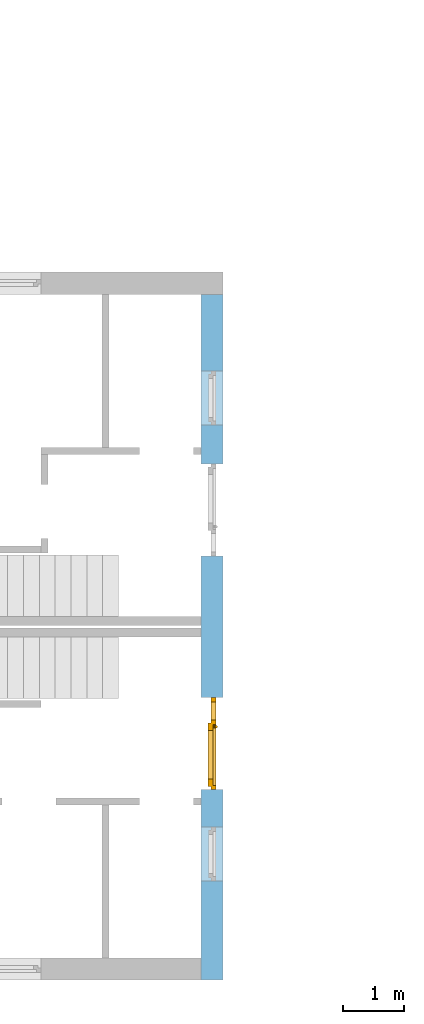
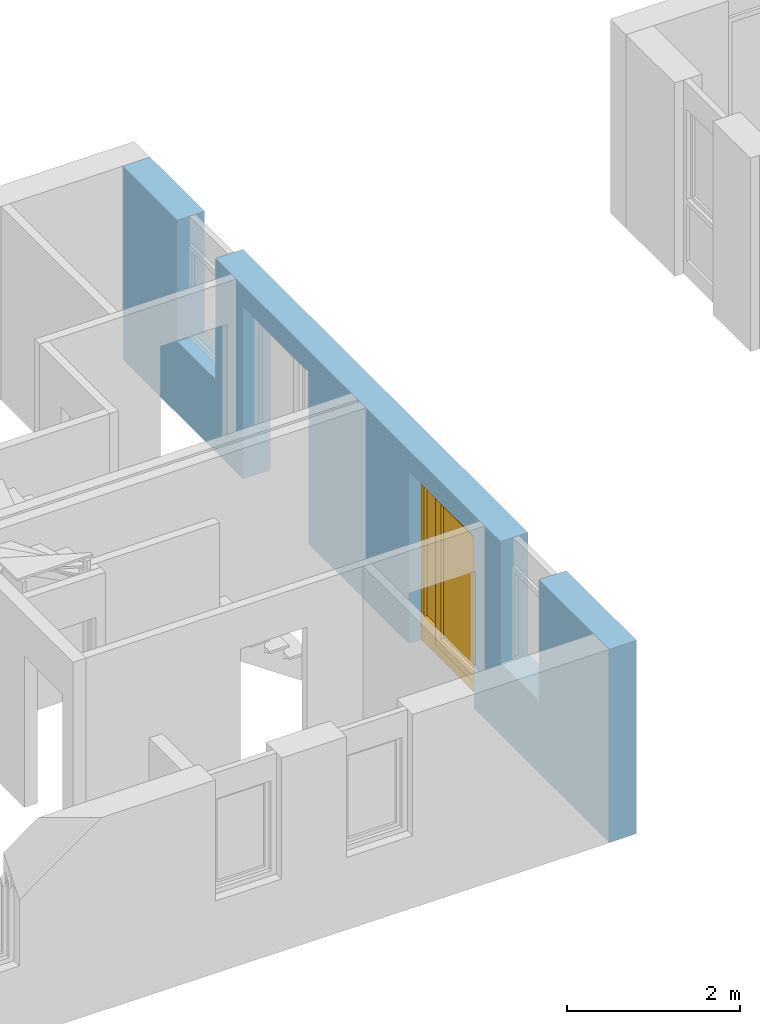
# One storey, part 9 of 41: 1 door, 4 openings, plus 1 element that does not belong to this part.
"""IFC2X3 building model written with IfcOpenShell, lengths in millimetres."""

from ifc_helpers import new_model, entity, si_unit, converted_unit, frame, frame_2d, origin, origin_with_axes, place, context, subcontext, project, spatial, rectangle, extrude, faceted_brep, material, layer, layer_set, layer_usage, type_object, element, fill, save


model = new_model("IFC2X3")

# Units and contexts
model_context = context("Model", 3, precision=1e-05, world=origin())
body_context = subcontext(model_context, "Body", "Model", "MODEL_VIEW")
ifc_project = project(units=[si_unit("LENGTHUNIT", "METRE", prefix="MILLI"), converted_unit("PLANEANGLEUNIT", "DEGREE", entity("IfcPlaneAngleMeasure", 0.0174532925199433), si_unit("PLANEANGLEUNIT", "RADIAN"), dimensions=[0, 0, 0, 0, 0, 0, 0]), si_unit("AREAUNIT", "SQUARE_METRE"), si_unit("VOLUMEUNIT", "CUBIC_METRE")], contexts=[model_context])

# Building, storey
building_placement = place(None, origin())
building = spatial("IfcBuilding", under=ifc_project, at=building_placement, Name="Gebäude", CompositionType="ELEMENT")
storey_placement = place(building_placement, frame((0.0, 0.0, -200.0), z_axis=(0.0, 0.0, 1.0), x_axis=(1.0, 0.0, 0.0)))
storey = spatial("IfcBuildingStorey", under=building, at=storey_placement, Name="EG.- Grundriss", CompositionType="ELEMENT", Elevation=-200.0)

# Wall, openings, door
ifc_material_1 = material(Name="Poroton")
ifc_layer = layer(ifc_material_1, 365.0000000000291)
ifc_layer_set = layer_set([ifc_layer])
ifc_layer_usage = layer_usage(ifc_layer_set, "AXIS2", "POSITIVE", 0.0)
wall_placement = place(storey_placement, frame((142357.7928067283, 125274.8877321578, 0.0), z_axis=(0.0, 0.0, 1.0), x_axis=(0.0, 1.0, 0.0)))
wall = element("IfcWallStandardCase", 1, at=wall_placement, inside=storey, material=ifc_layer_usage, Name="<Unnamed Element>", context=body_context, shape_type="SweptSolid", body=[
    extrude(rectangle(XDim=11250.00000031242, YDim=365.0000000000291, at=frame_2d((5625.000000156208, 182.5000000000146), x_axis=(1.0, 0.0))), origin_with_axes(), (0.0, 0.0, 1.0), 2730.0),
])
opening_1_placement = place(wall_placement, frame((6955.000000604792, 0.0, 0.0), z_axis=(0.0, 1.0, 0.0), x_axis=(0.0, 0.0, 1.0)))
element("IfcOpeningElement", 2, at=opening_1_placement, cuts=wall, Name="Türöffnung", ObjectType="Opening", context=body_context, shape_type="SweptSolid", body=[
    extrude(rectangle(XDim=2430.0, YDim=1510.0, at=frame_2d((1215.0, 755.0), x_axis=(1.0, 0.0))), origin_with_axes(), (0.0, 0.0, 1.0), 365.0000000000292),
])
opening_2_placement = place(wall_placement, frame((3125.0, 0.0, 0.0), z_axis=(0.0, 1.0, 0.0), x_axis=(0.0, 0.0, 1.0)))
opening_2 = element("IfcOpeningElement", 3, at=opening_2_placement, cuts=wall, Name="Türöffnung", ObjectType="Opening", context=body_context, shape_type="SweptSolid", body=[
    extrude(rectangle(XDim=2430.0, YDim=1510.0, at=frame_2d((1215.0, 755.0), x_axis=(1.0, 0.0))), origin_with_axes(), (0.0, 0.0, 1.0), 365.0000000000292),
])
opening_3_placement = place(wall_placement, frame((9105.000000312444, 0.0, 1020.0), z_axis=(0.0, 1.0, 0.0), x_axis=(0.0, 0.0, 1.0)))
element("IfcOpeningElement", 4, at=opening_3_placement, cuts=wall, Name="Fensteröffnung", ObjectType="Opening", context=body_context, shape_type="SweptSolid", body=[
    extrude(rectangle(XDim=1710.0, YDim=885.0, at=frame_2d((855.0, 442.5), x_axis=(1.0, 0.0))), origin_with_axes(), (0.0, 0.0, 1.0), 365.0000000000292),
])
opening_4_placement = place(wall_placement, frame((1625.0, 0.0, 1020.0), z_axis=(0.0, 1.0, 0.0), x_axis=(0.0, 0.0, 1.0)))
element("IfcOpeningElement", 5, at=opening_4_placement, cuts=wall, Name="Fensteröffnung", ObjectType="Opening", context=body_context, shape_type="SweptSolid", body=[
    extrude(rectangle(XDim=1710.0, YDim=885.0, at=frame_2d((855.0, 442.5), x_axis=(1.0, 0.0))), origin_with_axes(), (0.0, 0.0, 1.0), 365.0000000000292),
])
ifc_material_2 = material()
door_style = type_object("IfcDoorStyle", Name="Tür", ConstructionType="NOTDEFINED", OperationType="USERDEFINED", ParameterTakesPrecedence=False, Sizeable=False)
door_placement = place(opening_2_placement, frame((0.0, 0.0, 0.0), z_axis=(1.0, 0.0, 0.0), x_axis=(0.0, 1.0, 0.0)))
door = element("IfcDoor", 6, at=door_placement, inside=storey, type_object=door_style, material=ifc_material_2, Name="Tür", OverallHeight=2430.0, OverallWidth=1510.0, context=body_context, shape_type="Brep", body=[
    faceted_brep([(4.898587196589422e-15, 200.0000000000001, 2430.0), (4.898587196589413e-15, 200.0, -2.449293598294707e-15), (70.0, 200.0, -2.449293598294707e-15), (70.0, 200.0000000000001, 2430.0), (0.0, 120.0, 2.449293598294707e-15), (8.701638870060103e-30, 120.0000000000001, 2430.0), (70.0, 120.0000000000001, 2430.0), (70.0, 120.0, 2.449293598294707e-15), (4.898587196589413e-15, 200.0, -2.449293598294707e-15), (4.898587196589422e-15, 200.0000000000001, 2430.0), (8.701638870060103e-30, 120.0000000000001, 2430.0), (0.0, 120.0, 2.449293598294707e-15), (70.0, 200.0, -2.449293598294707e-15), (4.898587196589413e-15, 200.0, -2.449293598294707e-15), (0.0, 120.0, 2.449293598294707e-15), (70.0, 120.0, 2.449293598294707e-15), (70.0, 200.0000000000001, 2430.0), (70.0, 200.0, -2.449293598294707e-15), (70.0, 120.0, 2.449293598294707e-15), (70.0, 120.0000000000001, 2430.0), (4.898587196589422e-15, 200.0000000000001, 2430.0), (70.0, 200.0000000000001, 2430.0), (70.0, 120.0000000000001, 2430.0), (8.701638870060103e-30, 120.0000000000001, 2430.0)], [[[0, 1, 2, 3]], [[4, 5, 6, 7]], [[8, 9, 10, 11]], [[12, 13, 14, 15]], [[16, 17, 18, 19]], [[20, 21, 22, 23]]], orient=[[False], [False], [False], [False], [False], [False]]),
    faceted_brep([(1440.0, 200.0000000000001, 2430.0), (1440.0, 199.9999999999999, -2.449293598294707e-15), (1510.0, 199.9999999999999, -2.449293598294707e-15), (1510.0, 200.0000000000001, 2430.0), (1440.0, 119.9999999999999, 2.449293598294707e-15), (1440.0, 120.0000000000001, 2430.0), (1510.0, 120.0, 2430.0), (1510.0, 119.9999999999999, 2.449293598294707e-15), (1440.0, 199.9999999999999, -2.449293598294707e-15), (1440.0, 200.0000000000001, 2430.0), (1440.0, 120.0000000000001, 2430.0), (1440.0, 119.9999999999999, 2.449293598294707e-15), (1510.0, 199.9999999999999, -2.449293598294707e-15), (1440.0, 199.9999999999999, -2.449293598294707e-15), (1440.0, 119.9999999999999, 2.449293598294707e-15), (1510.0, 119.9999999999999, 2.449293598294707e-15), (1510.0, 200.0000000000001, 2430.0), (1510.0, 199.9999999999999, -2.449293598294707e-15), (1510.0, 119.9999999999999, 2.449293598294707e-15), (1510.0, 120.0, 2430.0), (1440.0, 200.0000000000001, 2430.0), (1510.0, 200.0000000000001, 2430.0), (1510.0, 120.0, 2430.0), (1440.0, 120.0000000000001, 2430.0)], [[[0, 1, 2, 3]], [[4, 5, 6, 7]], [[8, 9, 10, 11]], [[12, 13, 14, 15]], [[16, 17, 18, 19]], [[20, 21, 22, 23]]], orient=[[False], [False], [False], [False], [False], [False]]),
    faceted_brep([(70.0, 200.0, 220.0), (70.0, 200.0, -2.449293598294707e-15), (1440.0, 199.9999999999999, -2.449293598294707e-15), (1440.0, 199.9999999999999, 220.0), (70.0, 120.0, 2.449293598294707e-15), (70.0, 120.0, 220.0), (1440.0, 119.9999999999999, 220.0), (1440.0, 119.9999999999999, 2.449293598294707e-15), (70.0, 200.0, -2.449293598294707e-15), (70.0, 200.0, 220.0), (70.0, 120.0, 220.0), (70.0, 120.0, 2.449293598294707e-15), (1440.0, 199.9999999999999, -2.449293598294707e-15), (70.0, 200.0, -2.449293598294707e-15), (70.0, 120.0, 2.449293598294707e-15), (1440.0, 119.9999999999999, 2.449293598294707e-15), (1440.0, 199.9999999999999, 220.0), (1440.0, 199.9999999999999, -2.449293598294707e-15), (1440.0, 119.9999999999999, 2.449293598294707e-15), (1440.0, 119.9999999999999, 220.0), (70.0, 200.0, 220.0), (1440.0, 199.9999999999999, 220.0), (1440.0, 119.9999999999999, 220.0), (70.0, 120.0, 220.0)], [[[0, 1, 2, 3]], [[4, 5, 6, 7]], [[8, 9, 10, 11]], [[12, 13, 14, 15]], [[16, 17, 18, 19]], [[20, 21, 22, 23]]], orient=[[False], [False], [False], [False], [False], [False]]),
    faceted_brep([(70.0, 200.0000000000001, 2430.000000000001), (70.0, 200.0000000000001, 2360.000000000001), (1440.0, 200.0000000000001, 2360.000000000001), (1440.0, 200.0000000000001, 2430.000000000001), (70.0, 120.0000000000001, 2360.000000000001), (70.0, 120.0000000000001, 2430.000000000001), (1440.0, 120.0000000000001, 2430.000000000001), (1440.0, 120.0000000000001, 2360.000000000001), (70.0, 200.0000000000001, 2360.000000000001), (70.0, 200.0000000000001, 2430.000000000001), (70.0, 120.0000000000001, 2430.000000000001), (70.0, 120.0000000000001, 2360.000000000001), (1440.0, 200.0000000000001, 2360.000000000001), (70.0, 200.0000000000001, 2360.000000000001), (70.0, 120.0000000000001, 2360.000000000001), (1440.0, 120.0000000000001, 2360.000000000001), (1440.0, 200.0000000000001, 2430.000000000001), (1440.0, 200.0000000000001, 2360.000000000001), (1440.0, 120.0000000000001, 2360.000000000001), (1440.0, 120.0000000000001, 2430.000000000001), (70.0, 200.0000000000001, 2430.000000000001), (1440.0, 200.0000000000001, 2430.000000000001), (1440.0, 120.0000000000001, 2430.000000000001), (70.0, 120.0000000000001, 2430.000000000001)], [[[0, 1, 2, 3]], [[4, 5, 6, 7]], [[8, 9, 10, 11]], [[12, 13, 14, 15]], [[16, 17, 18, 19]], [[20, 21, 22, 23]]], orient=[[False], [False], [False], [False], [False], [False]]),
    faceted_brep([(1070.0, 200.0000000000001, 2360.0), (1070.0, 199.9999999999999, 220.0), (1140.0, 199.9999999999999, 220.0), (1140.0, 200.0000000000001, 2360.0), (1070.0, 119.9999999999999, 220.0), (1070.0, 120.0000000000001, 2360.0), (1140.0, 120.0000000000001, 2360.0), (1140.0, 119.9999999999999, 220.0), (1070.0, 199.9999999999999, 220.0), (1070.0, 200.0000000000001, 2360.0), (1070.0, 120.0000000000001, 2360.0), (1070.0, 119.9999999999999, 220.0), (1140.0, 199.9999999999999, 220.0), (1070.0, 199.9999999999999, 220.0), (1070.0, 119.9999999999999, 220.0), (1140.0, 119.9999999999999, 220.0), (1140.0, 200.0000000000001, 2360.0), (1140.0, 199.9999999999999, 220.0), (1140.0, 119.9999999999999, 220.0), (1140.0, 120.0000000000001, 2360.0), (1070.0, 200.0000000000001, 2360.0), (1140.0, 200.0000000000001, 2360.0), (1140.0, 120.0000000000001, 2360.0), (1070.0, 120.0000000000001, 2360.0)], [[[0, 1, 2, 3]], [[4, 5, 6, 7]], [[8, 9, 10, 11]], [[12, 13, 14, 15]], [[16, 17, 18, 19]], [[20, 21, 22, 23]]], orient=[[False], [False], [False], [False], [False], [False]]),
    faceted_brep([(50.00000000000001, 250.0000000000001, 2380.0), (50.00000000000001, 250.0, 200.0), (170.0, 250.0, 200.0), (170.0, 250.0000000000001, 2380.0), (50.0, 170.0, 200.0), (50.0, 170.0000000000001, 2380.0), (170.0, 170.0000000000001, 2380.0), (170.0, 170.0, 200.0), (50.00000000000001, 250.0, 200.0), (50.00000000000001, 250.0000000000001, 2380.0), (50.0, 170.0000000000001, 2380.0), (50.0, 170.0, 200.0), (170.0, 250.0, 200.0), (50.00000000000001, 250.0, 200.0), (50.0, 170.0, 200.0), (170.0, 170.0, 200.0), (170.0, 250.0000000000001, 2380.0), (170.0, 250.0, 200.0), (170.0, 170.0, 200.0), (170.0, 170.0000000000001, 2380.0), (50.00000000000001, 250.0000000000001, 2380.0), (170.0, 250.0000000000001, 2380.0), (170.0, 170.0000000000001, 2380.0), (50.0, 170.0000000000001, 2380.0)], [[[0, 1, 2, 3]], [[4, 5, 6, 7]], [[8, 9, 10, 11]], [[12, 13, 14, 15]], [[16, 17, 18, 19]], [[20, 21, 22, 23]]], orient=[[False], [False], [False], [False], [False], [False]]),
    faceted_brep([(970.0, 250.0000000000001, 2380.0), (970.0, 249.9999999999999, 200.0), (1090.0, 249.9999999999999, 200.0), (1090.0, 250.0000000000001, 2380.0), (970.0, 169.9999999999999, 200.0), (970.0, 170.0000000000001, 2380.0), (1090.0, 170.0000000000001, 2380.0), (1090.0, 169.9999999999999, 200.0), (970.0, 249.9999999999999, 200.0), (970.0, 250.0000000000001, 2380.0), (970.0, 170.0000000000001, 2380.0), (970.0, 169.9999999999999, 200.0), (1090.0, 249.9999999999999, 200.0), (970.0, 249.9999999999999, 200.0), (970.0, 169.9999999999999, 200.0), (1090.0, 169.9999999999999, 200.0), (1090.0, 250.0000000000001, 2380.0), (1090.0, 249.9999999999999, 200.0), (1090.0, 169.9999999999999, 200.0), (1090.0, 170.0000000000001, 2380.0), (970.0, 250.0000000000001, 2380.0), (1090.0, 250.0000000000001, 2380.0), (1090.0, 170.0000000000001, 2380.0), (970.0, 170.0000000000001, 2380.0)], [[[0, 1, 2, 3]], [[4, 5, 6, 7]], [[8, 9, 10, 11]], [[12, 13, 14, 15]], [[16, 17, 18, 19]], [[20, 21, 22, 23]]], orient=[[False], [False], [False], [False], [False], [False]]),
    faceted_brep([(170.0, 250.0, 350.0), (170.0, 250.0, 200.0), (970.0, 249.9999999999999, 200.0), (970.0, 249.9999999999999, 350.0), (170.0, 170.0, 200.0), (170.0, 170.0, 350.0), (970.0, 169.9999999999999, 350.0), (970.0, 169.9999999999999, 200.0), (170.0, 250.0, 200.0), (170.0, 250.0, 350.0), (170.0, 170.0, 350.0), (170.0, 170.0, 200.0), (970.0, 249.9999999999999, 200.0), (170.0, 250.0, 200.0), (170.0, 170.0, 200.0), (970.0, 169.9999999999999, 200.0), (970.0, 249.9999999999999, 350.0), (970.0, 249.9999999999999, 200.0), (970.0, 169.9999999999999, 200.0), (970.0, 169.9999999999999, 350.0), (170.0, 250.0, 350.0), (970.0, 249.9999999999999, 350.0), (970.0, 169.9999999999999, 350.0), (170.0, 170.0, 350.0)], [[[0, 1, 2, 3]], [[4, 5, 6, 7]], [[8, 9, 10, 11]], [[12, 13, 14, 15]], [[16, 17, 18, 19]], [[20, 21, 22, 23]]], orient=[[False], [False], [False], [False], [False], [False]]),
    faceted_brep([(170.0, 250.0000000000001, 2380.0), (170.0, 250.0000000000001, 2260.0), (970.0, 250.0000000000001, 2260.0), (970.0, 250.0000000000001, 2380.0), (170.0, 170.0000000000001, 2260.0), (170.0, 170.0000000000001, 2380.0), (970.0, 170.0000000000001, 2380.0), (970.0, 170.0000000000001, 2260.0), (170.0, 250.0000000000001, 2260.0), (170.0, 250.0000000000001, 2380.0), (170.0, 170.0000000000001, 2380.0), (170.0, 170.0000000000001, 2260.0), (970.0, 250.0000000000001, 2260.0), (170.0, 250.0000000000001, 2260.0), (170.0, 170.0000000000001, 2260.0), (970.0, 170.0000000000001, 2260.0), (970.0, 250.0000000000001, 2380.0), (970.0, 250.0000000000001, 2260.0), (970.0, 170.0000000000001, 2260.0), (970.0, 170.0000000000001, 2380.0), (170.0, 250.0000000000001, 2380.0), (970.0, 250.0000000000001, 2380.0), (970.0, 170.0000000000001, 2380.0), (170.0, 170.0000000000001, 2380.0)], [[[0, 1, 2, 3]], [[4, 5, 6, 7]], [[8, 9, 10, 11]], [[12, 13, 14, 15]], [[16, 17, 18, 19]], [[20, 21, 22, 23]]], orient=[[False], [False], [False], [False], [False], [False]]),
    faceted_brep([(1050.0, 170.0000000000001, 1920.0), (1047.320508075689, 170.0000000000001, 1930.0), (1040.0, 170.0000000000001, 1937.320508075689), (1030.0, 170.0000000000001, 1940.0), (1020.0, 170.0000000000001, 1937.320508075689), (1012.679491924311, 170.0000000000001, 1930.0), (1010.0, 170.0000000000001, 1920.0), (1012.679491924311, 170.0000000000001, 1910.0), (1020.0, 170.0000000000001, 1902.679491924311), (1030.0, 170.0000000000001, 1900.0), (1040.0, 170.0000000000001, 1902.679491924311), (1047.320508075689, 170.0000000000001, 1910.0), (1050.0, 170.0000000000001, 1920.0), (1050.0, 110.0, 1920.0), (1047.320508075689, 100.0, 1930.0), (1047.320508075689, 170.0000000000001, 1930.0), (1047.320508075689, 170.0000000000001, 1930.0), (1047.320508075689, 100.0, 1930.0), (1040.0, 92.67949192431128, 1937.320508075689), (1040.0, 170.0000000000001, 1937.320508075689), (1040.0, 170.0000000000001, 1937.320508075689), (1040.0, 92.67949192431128, 1937.320508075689), (1030.0, 90.00000000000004, 1940.0), (1030.0, 170.0000000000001, 1940.0), (1030.0, 170.0000000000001, 1940.0), (1030.0, 90.00000000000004, 1940.0), (1020.0, 92.67949192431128, 1937.320508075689), (1020.0, 170.0000000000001, 1937.320508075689), (1020.0, 170.0000000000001, 1937.320508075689), (1020.0, 92.67949192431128, 1937.320508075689), (1012.679491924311, 100.0, 1930.0), (1012.679491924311, 170.0000000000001, 1930.0), (1012.679491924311, 170.0000000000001, 1930.0), (1012.679491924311, 100.0, 1930.0), (1010.0, 110.0, 1920.0), (1010.0, 170.0000000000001, 1920.0), (1010.0, 170.0000000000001, 1920.0), (1010.0, 110.0, 1920.0), (1012.679491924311, 120.0, 1910.0), (1012.679491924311, 170.0000000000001, 1910.0), (1012.679491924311, 170.0000000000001, 1910.0), (1012.679491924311, 120.0, 1910.0), (1020.0, 127.3205080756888, 1902.679491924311), (1020.0, 170.0000000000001, 1902.679491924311), (1020.0, 170.0000000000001, 1902.679491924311), (1020.0, 127.3205080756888, 1902.679491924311), (1030.0, 130.0000000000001, 1900.0), (1030.0, 170.0000000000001, 1900.0), (1030.0, 170.0000000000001, 1900.0), (1030.0, 130.0000000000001, 1900.0), (1040.0, 127.3205080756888, 1902.679491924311), (1040.0, 170.0000000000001, 1902.679491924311), (1040.0, 170.0000000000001, 1902.679491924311), (1040.0, 127.3205080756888, 1902.679491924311), (1047.320508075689, 120.0, 1910.0), (1047.320508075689, 170.0000000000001, 1910.0), (1047.320508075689, 170.0000000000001, 1910.0), (1047.320508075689, 120.0, 1910.0), (1050.0, 110.0, 1920.0), (1050.0, 170.0000000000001, 1920.0), (1050.0, 110.0, 1920.0), (1050.0, 110.0, 620.0), (1047.320508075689, 99.99999999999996, 610.0), (1047.320508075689, 100.0, 1930.0), (1047.320508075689, 100.0, 1930.0), (1047.320508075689, 99.99999999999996, 610.0), (1040.0, 92.6794919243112, 602.6794919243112), (1040.0, 92.67949192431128, 1937.320508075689), (1040.0, 92.67949192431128, 1937.320508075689), (1040.0, 92.6794919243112, 602.6794919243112), (1030.0, 89.99999999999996, 600.0), (1030.0, 90.00000000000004, 1940.0), (1030.0, 90.00000000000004, 1940.0), (1030.0, 89.99999999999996, 600.0), (1020.0, 92.67949192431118, 602.6794919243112), (1020.0, 92.67949192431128, 1937.320508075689), (1020.0, 92.67949192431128, 1937.320508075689), (1020.0, 92.67949192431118, 602.6794919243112), (1012.679491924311, 99.99999999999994, 610.0), (1012.679491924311, 100.0, 1930.0), (1012.679491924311, 100.0, 1930.0), (1012.679491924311, 99.99999999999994, 610.0), (1010.0, 110.0, 620.0), (1010.0, 110.0, 1920.0), (1010.0, 110.0, 1920.0), (1010.0, 110.0, 620.0), (1012.679491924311, 120.0, 630.0), (1012.679491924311, 120.0, 1910.0), (1012.679491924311, 120.0, 1910.0), (1012.679491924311, 120.0, 630.0), (1020.0, 127.3205080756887, 637.3205080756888), (1020.0, 127.3205080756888, 1902.679491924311), (1020.0, 127.3205080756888, 1902.679491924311), (1020.0, 127.3205080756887, 637.3205080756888), (1030.0, 130.0, 640.0), (1030.0, 130.0000000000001, 1900.0), (1030.0, 130.0000000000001, 1900.0), (1030.0, 130.0, 640.0), (1040.0, 127.3205080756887, 637.3205080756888), (1040.0, 127.3205080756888, 1902.679491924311), (1040.0, 127.3205080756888, 1902.679491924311), (1040.0, 127.3205080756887, 637.3205080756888), (1047.320508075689, 120.0, 630.0), (1047.320508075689, 120.0, 1910.0), (1047.320508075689, 120.0, 1910.0), (1047.320508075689, 120.0, 630.0), (1050.0, 110.0, 620.0), (1050.0, 110.0, 1920.0), (1050.0, 170.0, 620.0), (1047.320508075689, 170.0, 630.0), (1040.0, 170.0, 637.3205080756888), (1030.0, 170.0, 640.0), (1020.0, 170.0, 637.3205080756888), (1012.679491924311, 170.0, 630.0), (1010.0, 170.0, 620.0), (1012.679491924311, 170.0, 610.0), (1020.0, 170.0, 602.6794919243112), (1030.0, 170.0, 600.0), (1040.0, 170.0, 602.6794919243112), (1047.320508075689, 170.0, 610.0), (1050.0, 110.0, 620.0), (1050.0, 170.0, 620.0), (1047.320508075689, 170.0, 610.0), (1047.320508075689, 99.99999999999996, 610.0), (1047.320508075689, 99.99999999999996, 610.0), (1047.320508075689, 170.0, 610.0), (1040.0, 170.0, 602.6794919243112), (1040.0, 92.6794919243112, 602.6794919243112), (1040.0, 92.6794919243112, 602.6794919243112), (1040.0, 170.0, 602.6794919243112), (1030.0, 170.0, 600.0), (1030.0, 89.99999999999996, 600.0), (1030.0, 89.99999999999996, 600.0), (1030.0, 170.0, 600.0), (1020.0, 170.0, 602.6794919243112), (1020.0, 92.67949192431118, 602.6794919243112), (1020.0, 92.67949192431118, 602.6794919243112), (1020.0, 170.0, 602.6794919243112), (1012.679491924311, 170.0, 610.0), (1012.679491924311, 99.99999999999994, 610.0), (1012.679491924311, 99.99999999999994, 610.0), (1012.679491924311, 170.0, 610.0), (1010.0, 170.0, 620.0), (1010.0, 110.0, 620.0), (1010.0, 110.0, 620.0), (1010.0, 170.0, 620.0), (1012.679491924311, 170.0, 630.0), (1012.679491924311, 120.0, 630.0), (1012.679491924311, 120.0, 630.0), (1012.679491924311, 170.0, 630.0), (1020.0, 170.0, 637.3205080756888), (1020.0, 127.3205080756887, 637.3205080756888), (1020.0, 127.3205080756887, 637.3205080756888), (1020.0, 170.0, 637.3205080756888), (1030.0, 170.0, 640.0), (1030.0, 130.0, 640.0), (1030.0, 130.0, 640.0), (1030.0, 170.0, 640.0), (1040.0, 170.0, 637.3205080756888), (1040.0, 127.3205080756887, 637.3205080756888), (1040.0, 127.3205080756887, 637.3205080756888), (1040.0, 170.0, 637.3205080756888), (1047.320508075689, 170.0, 630.0), (1047.320508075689, 120.0, 630.0), (1047.320508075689, 120.0, 630.0), (1047.320508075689, 170.0, 630.0), (1050.0, 170.0, 620.0), (1050.0, 110.0, 620.0)], [[[0, 1, 2, 3, 4, 5, 6, 7, 8, 9, 10, 11]], [[12, 13, 14, 15]], [[16, 17, 18, 19]], [[20, 21, 22, 23]], [[24, 25, 26, 27]], [[28, 29, 30, 31]], [[32, 33, 34, 35]], [[36, 37, 38, 39]], [[40, 41, 42, 43]], [[44, 45, 46, 47]], [[48, 49, 50, 51]], [[52, 53, 54, 55]], [[56, 57, 58, 59]], [[60, 61, 62, 63]], [[64, 65, 66, 67]], [[68, 69, 70, 71]], [[72, 73, 74, 75]], [[76, 77, 78, 79]], [[80, 81, 82, 83]], [[84, 85, 86, 87]], [[88, 89, 90, 91]], [[92, 93, 94, 95]], [[96, 97, 98, 99]], [[100, 101, 102, 103]], [[104, 105, 106, 107]], [[108, 109, 110, 111, 112, 113, 114, 115, 116, 117, 118, 119]], [[120, 121, 122, 123]], [[124, 125, 126, 127]], [[128, 129, 130, 131]], [[132, 133, 134, 135]], [[136, 137, 138, 139]], [[140, 141, 142, 143]], [[144, 145, 146, 147]], [[148, 149, 150, 151]], [[152, 153, 154, 155]], [[156, 157, 158, 159]], [[160, 161, 162, 163]], [[164, 165, 166, 167]]], orient=[[False], [False], [False], [False], [False], [False], [False], [False], [False], [False], [False], [False], [False], [False], [False], [False], [False], [False], [False], [False], [False], [False], [False], [False], [False], [False], [False], [False], [False], [False], [False], [False], [False], [False], [False], [False], [False], [False]]),
    faceted_brep([(1140.0, 199.9999999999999, 370.0), (1140.0, 199.9999999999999, 220.0), (1440.0, 199.9999999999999, 220.0), (1440.0, 199.9999999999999, 370.0), (1140.0, 119.9999999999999, 220.0), (1140.0, 120.0, 370.0), (1440.0, 119.9999999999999, 370.0), (1440.0, 119.9999999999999, 220.0), (1140.0, 199.9999999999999, 220.0), (1140.0, 199.9999999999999, 370.0), (1140.0, 120.0, 370.0), (1140.0, 119.9999999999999, 220.0), (1440.0, 199.9999999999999, 220.0), (1140.0, 199.9999999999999, 220.0), (1140.0, 119.9999999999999, 220.0), (1440.0, 119.9999999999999, 220.0), (1440.0, 199.9999999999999, 370.0), (1440.0, 199.9999999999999, 220.0), (1440.0, 119.9999999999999, 220.0), (1440.0, 119.9999999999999, 370.0), (1140.0, 199.9999999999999, 370.0), (1440.0, 199.9999999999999, 370.0), (1440.0, 119.9999999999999, 370.0), (1140.0, 120.0, 370.0)], [[[0, 1, 2, 3]], [[4, 5, 6, 7]], [[8, 9, 10, 11]], [[12, 13, 14, 15]], [[16, 17, 18, 19]], [[20, 21, 22, 23]]], orient=[[False], [False], [False], [False], [False], [False]]),
    faceted_brep([(170.0, 210.0, 350.0), (970.0, 210.0, 350.0), (970.0, 210.0000000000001, 2260.0), (170.0, 210.0000000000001, 2260.0), (170.0, 209.0, 350.0), (170.0, 209.0000000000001, 2260.0), (970.0, 209.0000000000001, 2260.0), (970.0, 209.0, 350.0), (170.0, 210.0, 350.0), (170.0, 209.0, 350.0), (970.0, 209.0, 350.0), (970.0, 210.0, 350.0), (970.0, 210.0, 350.0), (970.0, 209.0, 350.0), (970.0, 209.0000000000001, 2260.0), (970.0, 210.0000000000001, 2260.0), (970.0, 210.0000000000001, 2260.0), (970.0, 209.0000000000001, 2260.0), (170.0, 209.0000000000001, 2260.0), (170.0, 210.0000000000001, 2260.0), (170.0, 210.0000000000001, 2260.0), (170.0, 209.0000000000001, 2260.0), (170.0, 209.0, 350.0), (170.0, 210.0, 350.0)], [[[0, 1, 2, 3]], [[4, 5, 6, 7]], [[8, 9, 10, 11]], [[12, 13, 14, 15]], [[16, 17, 18, 19]], [[20, 21, 22, 23]]], orient=[[False], [False], [False], [False], [False], [False]]),
    faceted_brep([(1140.0, 159.9999999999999, 370.0), (1440.0, 159.9999999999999, 370.0), (1440.0, 160.0000000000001, 2360.0), (1140.0, 160.0000000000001, 2360.0), (1140.0, 158.9999999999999, 370.0), (1140.0, 159.0000000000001, 2360.0), (1440.0, 159.0000000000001, 2360.0), (1440.0, 158.9999999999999, 370.0), (1140.0, 159.9999999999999, 370.0), (1140.0, 158.9999999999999, 370.0), (1440.0, 158.9999999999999, 370.0), (1440.0, 159.9999999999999, 370.0), (1440.0, 159.9999999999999, 370.0), (1440.0, 158.9999999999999, 370.0), (1440.0, 159.0000000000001, 2360.0), (1440.0, 160.0000000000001, 2360.0), (1440.0, 160.0000000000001, 2360.0), (1440.0, 159.0000000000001, 2360.0), (1140.0, 159.0000000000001, 2360.0), (1140.0, 160.0000000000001, 2360.0), (1140.0, 160.0000000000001, 2360.0), (1140.0, 159.0000000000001, 2360.0), (1140.0, 158.9999999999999, 370.0), (1140.0, 159.9999999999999, 370.0)], [[[0, 1, 2, 3]], [[4, 5, 6, 7]], [[8, 9, 10, 11]], [[12, 13, 14, 15]], [[16, 17, 18, 19]], [[20, 21, 22, 23]]], orient=[[False], [False], [False], [False], [False], [False]]),
])
fill(opening_2, door)

save(model, "model.ifc")
